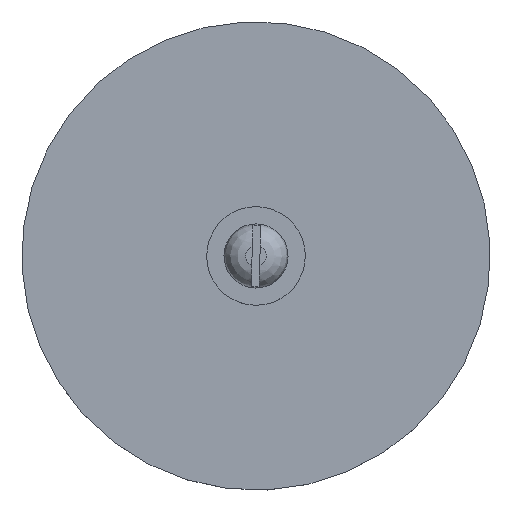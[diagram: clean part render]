
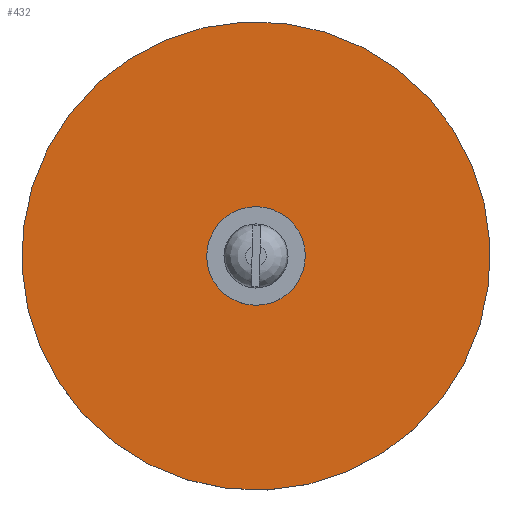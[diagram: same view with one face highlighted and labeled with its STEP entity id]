
A CAD part, top view. The second image highlights one B-rep face of the part: STEP entity #432.
In plain terms, the highlighted planar face has unit normal (0, 0, 1).
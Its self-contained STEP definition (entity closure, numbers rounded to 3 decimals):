
#58=FACE_BOUND('',#130,.T.);
#68=PLANE('',#562);
#97=FACE_OUTER_BOUND('',#129,.T.);
#129=EDGE_LOOP('',(#346));
#130=EDGE_LOOP('',(#347));
#194=CIRCLE('',#559,0.8);
#195=CIRCLE('',#561,9.5);
#227=VERTEX_POINT('',#811);
#228=VERTEX_POINT('',#815);
#268=EDGE_CURVE('',#227,#227,#194,.T.);
#270=EDGE_CURVE('',#228,#228,#195,.T.);
#346=ORIENTED_EDGE('',*,*,#270,.T.);
#347=ORIENTED_EDGE('',*,*,#268,.T.);
#432=ADVANCED_FACE('',(#97,#58),#68,.T.);
#559=AXIS2_PLACEMENT_3D('',#812,#664,#665);
#561=AXIS2_PLACEMENT_3D('',#816,#669,#670);
#562=AXIS2_PLACEMENT_3D('',#818,#672,#673);
#664=DIRECTION('center_axis',(0.,0.,-1.));
#665=DIRECTION('ref_axis',(-1.,0.,0.));
#669=DIRECTION('center_axis',(0.,0.,1.));
#670=DIRECTION('ref_axis',(1.,0.,0.));
#672=DIRECTION('center_axis',(0.,0.,1.));
#673=DIRECTION('ref_axis',(1.,0.,0.));
#811=CARTESIAN_POINT('',(0.8,0.,0.4));
#812=CARTESIAN_POINT('Origin',(0.,0.,0.4));
#815=CARTESIAN_POINT('',(-9.5,0.,0.4));
#816=CARTESIAN_POINT('Origin',(0.,0.,0.4));
#818=CARTESIAN_POINT('Origin',(0.,0.,0.4));
